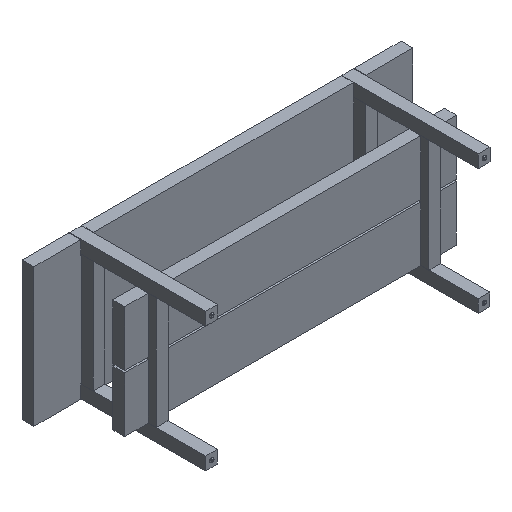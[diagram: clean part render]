
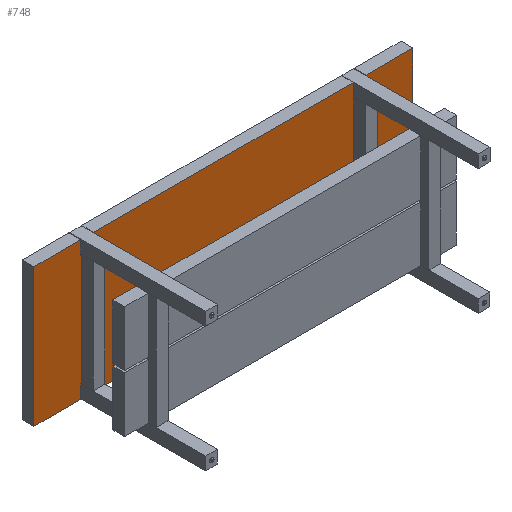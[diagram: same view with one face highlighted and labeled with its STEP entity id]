
A CAD part, isometric view. The second image highlights one B-rep face of the part: STEP entity #748.
In plain terms, the highlighted planar face has unit normal (0, -1, 0).
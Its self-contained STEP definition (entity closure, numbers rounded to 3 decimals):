
#81 = LINE ( 'NONE', #1954, #459 ) ;
#101 = VERTEX_POINT ( 'NONE', #155 ) ;
#122 = VERTEX_POINT ( 'NONE', #1850 ) ;
#155 = CARTESIAN_POINT ( 'NONE',  ( 761.489, 526.512, 623.53 ) ) ;
#175 = VECTOR ( 'NONE', #2523, 1000. ) ;
#185 = EDGE_CURVE ( 'NONE', #1070, #122, #2120, .T. ) ;
#255 = CARTESIAN_POINT ( 'NONE',  ( 761.489, 526.512, 580.668 ) ) ;
#261 = DIRECTION ( 'NONE',  ( 0., 0., -1. ) ) ;
#265 = ORIENTED_EDGE ( 'NONE', *, *, #2759, .T. ) ;
#279 = CARTESIAN_POINT ( 'NONE',  ( -73.536, 526.512, 221.893 ) ) ;
#323 = DIRECTION ( 'NONE',  ( 0., 0., -1. ) ) ;
#430 = DIRECTION ( 'NONE',  ( 1., 0., 0. ) ) ;
#459 = VECTOR ( 'NONE', #3178, 1000. ) ;
#460 = VERTEX_POINT ( 'NONE', #255 ) ;
#467 = LINE ( 'NONE', #1125, #1680 ) ;
#484 = ORIENTED_EDGE ( 'NONE', *, *, #2097, .T. ) ;
#495 = DIRECTION ( 'NONE',  ( 0., 0., 1. ) ) ;
#498 = LINE ( 'NONE', #2931, #1047 ) ;
#503 = VERTEX_POINT ( 'NONE', #279 ) ;
#513 = ORIENTED_EDGE ( 'NONE', *, *, #3287, .F. ) ;
#536 = DIRECTION ( 'NONE',  ( -1., 0., 0. ) ) ;
#543 = CARTESIAN_POINT ( 'NONE',  ( -265.624, 526.512, 179.03 ) ) ;
#605 = VERTEX_POINT ( 'NONE', #3214 ) ;
#609 = EDGE_CURVE ( 'NONE', #1070, #605, #2248, .T. ) ;
#638 = CARTESIAN_POINT ( 'NONE',  ( -265.624, 526.512, 623.53 ) ) ;
#644 = CARTESIAN_POINT ( 'NONE',  ( -73.536, 526.512, 580.668 ) ) ;
#650 = VECTOR ( 'NONE', #536, 1000. ) ;
#652 = EDGE_CURVE ( 'NONE', #122, #460, #3291, .T. ) ;
#685 = ORIENTED_EDGE ( 'NONE', *, *, #3513, .F. ) ;
#692 = VECTOR ( 'NONE', #261, 1000. ) ;
#733 = LINE ( 'NONE', #3174, #1042 ) ;
#748 = ADVANCED_FACE ( 'NONE', ( #3233 ), #1452, .F. ) ;
#775 = VERTEX_POINT ( 'NONE', #2435 ) ;
#832 = EDGE_CURVE ( 'NONE', #503, #1786, #2173, .T. ) ;
#845 = VERTEX_POINT ( 'NONE', #1271 ) ;
#847 = VECTOR ( 'NONE', #430, 1000. ) ;
#897 = DIRECTION ( 'NONE',  ( 0., 0., -1. ) ) ;
#961 = ORIENTED_EDGE ( 'NONE', *, *, #3485, .F. ) ;
#987 = ORIENTED_EDGE ( 'NONE', *, *, #652, .T. ) ;
#1008 = VERTEX_POINT ( 'NONE', #3407 ) ;
#1042 = VECTOR ( 'NONE', #1925, 1000. ) ;
#1047 = VECTOR ( 'NONE', #1733, 1000. ) ;
#1070 = VERTEX_POINT ( 'NONE', #1466 ) ;
#1075 = EDGE_CURVE ( 'NONE', #775, #1119, #467, .T. ) ;
#1099 = DIRECTION ( 'NONE',  ( 0., 0., 1. ) ) ;
#1119 = VERTEX_POINT ( 'NONE', #1740 ) ;
#1123 = VECTOR ( 'NONE', #1543, 1000. ) ;
#1125 = CARTESIAN_POINT ( 'NONE',  ( -265.624, 526.512, 179.03 ) ) ;
#1206 = VERTEX_POINT ( 'NONE', #1801 ) ;
#1227 = DIRECTION ( 'NONE',  ( 1., 0., 0. ) ) ;
#1236 = CARTESIAN_POINT ( 'NONE',  ( -73.536, 526.512, 623.53 ) ) ;
#1252 = CARTESIAN_POINT ( 'NONE',  ( -114.811, 526.512, 625.118 ) ) ;
#1271 = CARTESIAN_POINT ( 'NONE',  ( -114.811, 526.512, 623.53 ) ) ;
#1314 = VECTOR ( 'NONE', #897, 1000. ) ;
#1338 = DIRECTION ( 'NONE',  ( 1., 0., 0. ) ) ;
#1350 = CARTESIAN_POINT ( 'NONE',  ( -114.811, 526.512, 234.593 ) ) ;
#1426 = VERTEX_POINT ( 'NONE', #644 ) ;
#1447 = VECTOR ( 'NONE', #3191, 1000. ) ;
#1452 = PLANE ( 'NONE',  #3416 ) ;
#1466 = CARTESIAN_POINT ( 'NONE',  ( 802.764, 526.512, 623.53 ) ) ;
#1484 = ORIENTED_EDGE ( 'NONE', *, *, #3243, .T. ) ;
#1522 = ORIENTED_EDGE ( 'NONE', *, *, #1075, .F. ) ;
#1539 = ORIENTED_EDGE ( 'NONE', *, *, #2491, .T. ) ;
#1540 = DIRECTION ( 'NONE',  ( 0., 0., 1. ) ) ;
#1543 = DIRECTION ( 'NONE',  ( 1., 0., 0. ) ) ;
#1545 = EDGE_CURVE ( 'NONE', #1008, #845, #3072, .T. ) ;
#1568 = LINE ( 'NONE', #2809, #1123 ) ;
#1609 = EDGE_CURVE ( 'NONE', #3788, #845, #3333, .T. ) ;
#1629 = ORIENTED_EDGE ( 'NONE', *, *, #609, .F. ) ;
#1641 = CARTESIAN_POINT ( 'NONE',  ( 761.489, 526.512, 221.893 ) ) ;
#1680 = VECTOR ( 'NONE', #2051, 1000. ) ;
#1705 = CARTESIAN_POINT ( 'NONE',  ( 343.976, 526.512, 234.593 ) ) ;
#1733 = DIRECTION ( 'NONE',  ( 0., 0., -1. ) ) ;
#1738 = ORIENTED_EDGE ( 'NONE', *, *, #1545, .T. ) ;
#1740 = CARTESIAN_POINT ( 'NONE',  ( 802.764, 526.512, 179.03 ) ) ;
#1744 = CARTESIAN_POINT ( 'NONE',  ( 802.764, 526.512, 580.668 ) ) ;
#1786 = VERTEX_POINT ( 'NONE', #2325 ) ;
#1800 = LINE ( 'NONE', #3033, #692 ) ;
#1801 = CARTESIAN_POINT ( 'NONE',  ( 802.764, 526.512, 221.893 ) ) ;
#1824 = VECTOR ( 'NONE', #495, 1000. ) ;
#1850 = CARTESIAN_POINT ( 'NONE',  ( 802.764, 526.512, 580.668 ) ) ;
#1925 = DIRECTION ( 'NONE',  ( 0., 0., -1. ) ) ;
#1937 = ORIENTED_EDGE ( 'NONE', *, *, #2461, .F. ) ;
#1942 = VECTOR ( 'NONE', #323, 1000. ) ;
#1954 = CARTESIAN_POINT ( 'NONE',  ( 761.489, 526.512, 625.118 ) ) ;
#1981 = VERTEX_POINT ( 'NONE', #2756 ) ;
#2012 = VECTOR ( 'NONE', #1338, 1000. ) ;
#2051 = DIRECTION ( 'NONE',  ( -1., 0., 0. ) ) ;
#2097 = EDGE_CURVE ( 'NONE', #3260, #503, #3440, .T. ) ;
#2120 = LINE ( 'NONE', #2787, #1314 ) ;
#2140 = VECTOR ( 'NONE', #3831, 1000. ) ;
#2148 = VECTOR ( 'NONE', #1227, 1000. ) ;
#2173 = LINE ( 'NONE', #3073, #1942 ) ;
#2229 = EDGE_CURVE ( 'NONE', #1426, #1008, #3764, .T. ) ;
#2236 = VECTOR ( 'NONE', #2387, 1000. ) ;
#2246 = CARTESIAN_POINT ( 'NONE',  ( 761.489, 526.512, 234.593 ) ) ;
#2248 = LINE ( 'NONE', #638, #3171 ) ;
#2307 = ORIENTED_EDGE ( 'NONE', *, *, #2860, .T. ) ;
#2325 = CARTESIAN_POINT ( 'NONE',  ( -73.536, 526.512, 179.03 ) ) ;
#2333 = VERTEX_POINT ( 'NONE', #3582 ) ;
#2357 = LINE ( 'NONE', #543, #1824 ) ;
#2376 = CARTESIAN_POINT ( 'NONE',  ( -265.624, 526.512, 623.53 ) ) ;
#2387 = DIRECTION ( 'NONE',  ( 0., 0., 1. ) ) ;
#2409 = VERTEX_POINT ( 'NONE', #1236 ) ;
#2435 = CARTESIAN_POINT ( 'NONE',  ( 953.576, 526.512, 179.03 ) ) ;
#2461 = EDGE_CURVE ( 'NONE', #2409, #101, #3738, .T. ) ;
#2472 = VECTOR ( 'NONE', #1540, 1000. ) ;
#2482 = CARTESIAN_POINT ( 'NONE',  ( -265.624, 526.512, 623.53 ) ) ;
#2491 = EDGE_CURVE ( 'NONE', #460, #101, #81, .T. ) ;
#2497 = ORIENTED_EDGE ( 'NONE', *, *, #185, .T. ) ;
#2523 = DIRECTION ( 'NONE',  ( -1., 0., 0. ) ) ;
#2548 = LINE ( 'NONE', #3701, #175 ) ;
#2580 = EDGE_CURVE ( 'NONE', #2855, #3788, #2357, .T. ) ;
#2683 = DIRECTION ( 'NONE',  ( 0., 1., 0. ) ) ;
#2756 = CARTESIAN_POINT ( 'NONE',  ( -114.811, 526.512, 179.03 ) ) ;
#2759 = EDGE_CURVE ( 'NONE', #3588, #1206, #1568, .T. ) ;
#2772 = ORIENTED_EDGE ( 'NONE', *, *, #832, .T. ) ;
#2787 = CARTESIAN_POINT ( 'NONE',  ( 802.764, 526.512, 567.968 ) ) ;
#2799 = CARTESIAN_POINT ( 'NONE',  ( -114.811, 526.512, 221.893 ) ) ;
#2804 = ORIENTED_EDGE ( 'NONE', *, *, #3007, .T. ) ;
#2809 = CARTESIAN_POINT ( 'NONE',  ( 802.764, 526.512, 221.893 ) ) ;
#2825 = DIRECTION ( 'NONE',  ( -1., 0., 0. ) ) ;
#2855 = VERTEX_POINT ( 'NONE', #3471 ) ;
#2860 = EDGE_CURVE ( 'NONE', #1981, #3260, #2864, .T. ) ;
#2864 = LINE ( 'NONE', #1350, #1447 ) ;
#2891 = VECTOR ( 'NONE', #2825, 1000. ) ;
#2905 = EDGE_CURVE ( 'NONE', #2409, #1426, #733, .T. ) ;
#2925 = ORIENTED_EDGE ( 'NONE', *, *, #1609, .F. ) ;
#2931 = CARTESIAN_POINT ( 'NONE',  ( 802.764, 526.512, 177.443 ) ) ;
#2956 = CARTESIAN_POINT ( 'NONE',  ( -114.811, 526.512, 221.893 ) ) ;
#3007 = EDGE_CURVE ( 'NONE', #1206, #1119, #498, .T. ) ;
#3033 = CARTESIAN_POINT ( 'NONE',  ( 953.576, 526.512, 179.03 ) ) ;
#3035 = EDGE_LOOP ( 'NONE', ( #685, #2307, #484, #2772, #961, #1484, #265, #2804, #1522, #513, #1629, #2497, #987, #1539, #1937, #3528, #3419, #1738, #2925, #3428 ) ) ;
#3072 = LINE ( 'NONE', #1252, #2472 ) ;
#3073 = CARTESIAN_POINT ( 'NONE',  ( -73.536, 526.512, 177.443 ) ) ;
#3147 = LINE ( 'NONE', #2246, #2236 ) ;
#3153 = CARTESIAN_POINT ( 'NONE',  ( -265.624, 526.512, 623.53 ) ) ;
#3171 = VECTOR ( 'NONE', #3682, 1000. ) ;
#3174 = CARTESIAN_POINT ( 'NONE',  ( -73.536, 526.512, 567.968 ) ) ;
#3178 = DIRECTION ( 'NONE',  ( 0., 0., 1. ) ) ;
#3191 = DIRECTION ( 'NONE',  ( 0., 0., 1. ) ) ;
#3205 = CARTESIAN_POINT ( 'NONE',  ( -114.811, 526.512, 580.668 ) ) ;
#3214 = CARTESIAN_POINT ( 'NONE',  ( 953.576, 526.512, 623.53 ) ) ;
#3233 = FACE_OUTER_BOUND ( 'NONE', #3035, .T. ) ;
#3243 = EDGE_CURVE ( 'NONE', #2333, #3588, #3147, .T. ) ;
#3260 = VERTEX_POINT ( 'NONE', #2956 ) ;
#3287 = EDGE_CURVE ( 'NONE', #605, #775, #1800, .T. ) ;
#3291 = LINE ( 'NONE', #1744, #650 ) ;
#3333 = LINE ( 'NONE', #2482, #2148 ) ;
#3407 = CARTESIAN_POINT ( 'NONE',  ( -114.811, 526.512, 580.668 ) ) ;
#3415 = CARTESIAN_POINT ( 'NONE',  ( -265.624, 526.512, 179.03 ) ) ;
#3416 = AXIS2_PLACEMENT_3D ( 'NONE', #1705, #2683, #1099 ) ;
#3419 = ORIENTED_EDGE ( 'NONE', *, *, #2229, .T. ) ;
#3428 = ORIENTED_EDGE ( 'NONE', *, *, #2580, .F. ) ;
#3436 = LINE ( 'NONE', #3415, #2891 ) ;
#3440 = LINE ( 'NONE', #2799, #2012 ) ;
#3471 = CARTESIAN_POINT ( 'NONE',  ( -265.624, 526.512, 179.03 ) ) ;
#3485 = EDGE_CURVE ( 'NONE', #2333, #1786, #2548, .T. ) ;
#3513 = EDGE_CURVE ( 'NONE', #1981, #2855, #3436, .T. ) ;
#3528 = ORIENTED_EDGE ( 'NONE', *, *, #2905, .T. ) ;
#3582 = CARTESIAN_POINT ( 'NONE',  ( 761.489, 526.512, 179.03 ) ) ;
#3588 = VERTEX_POINT ( 'NONE', #1641 ) ;
#3682 = DIRECTION ( 'NONE',  ( 1., 0., 0. ) ) ;
#3701 = CARTESIAN_POINT ( 'NONE',  ( -265.624, 526.512, 179.03 ) ) ;
#3738 = LINE ( 'NONE', #3153, #847 ) ;
#3764 = LINE ( 'NONE', #3205, #2140 ) ;
#3788 = VERTEX_POINT ( 'NONE', #2376 ) ;
#3831 = DIRECTION ( 'NONE',  ( -1., 0., 0. ) ) ;
